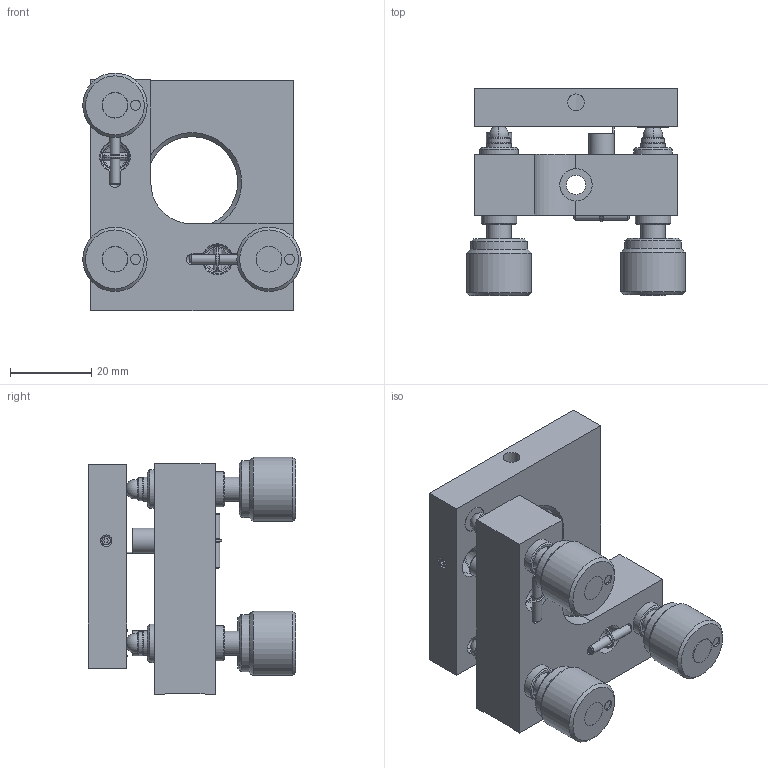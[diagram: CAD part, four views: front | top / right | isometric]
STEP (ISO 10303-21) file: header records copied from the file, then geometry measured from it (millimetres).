
FILE_DESCRIPTION(('Bauteilbeschreibung','HiCAD-Model','HiCAD-STEP-TRANSLATION','Bauteilbeschreibung'),'2;1');
FILE_NAME('D:/404485_STEP.STP','2005-03-03T10:32:44+00:00',('Konstrukteur'),('Konstrukteur Firma GmbH'),'HiCAD2 V1102 STEP 20.9.2001','HiCAD2 V1102','confidential');
FILE_SCHEMA(('AUTOMOTIVE_DESIGN { 1 2 10303 214 0 1 1 1 }'));
Length unit declared in the file: millimetre
Products named in the file (40): A0010885; BASE; A0008776; A00087760; A0008903; A00089030; A0008904; A0008758; A00089040; A0008772; A00087761; A00089031; A00089032; A00089041; A00089042; A00087720; A00087580; A00087762; A00089033; A00089034; A00089043; A00089044; A00087721; A00087581; A0008676; A00086760; A00086761; A0009083; A00090830; A00090831; A0010876; PLATE; A0009574; A00095740; A00095741; A0008863; A00088630; A00088631; A0008774; A0010102
Assembly tree (39 placements, depth 6):
  A0010885
    BASE
      A0008776
        A00087760
          A0008903
            A00089030
            A0008904
          A0008758
          A00089040
          A0008772
        A00087761
          A00089031
            A00089032
            A00089041
          A00089042
          A00087720
          A00087580
        A00087762
          A00089033
            A00089034
            A00089043
          A00089044
          A00087721
          A00087581
      A0008676
        A00086760
        A00086761
      A0009083
        A00090830
        A00090831
      A0010876
    PLATE
      A0009574
        A00095740
        A00095741
      A0008863
        A00088630
        A00088631
      A0008774
      A0010102
Bounding box: 53.88 x 51.16 x 58.69 mm (x, y, z)
Volume: 49389.5 mm3; surface area: 27122.9 mm2
Topology: 26 solids, 26 shells, 296 faces, 660 edges, 412 vertices
Faces by surface type: plane 124, cylinder 84, cone 68, sphere 12, torus 8
Full cylindrical faces by diameter (mm): 0.4 x4, 2.066 x4, 2.1 x2, 2.35 x4, 2.38 x2, 2.5 x6, 2.845 x2, 3.15 x1, 4.166 x1, 4.773 x1, 5.4 x2, 5.588 x3, 5.6 x3, 5.96 x3, 6 x1, 6.2 x2, 6.261 x3, 6.3 x1, 6.32 x3, 6.35 x3, 6.5 x1, 6.528 x1, 7.1 x2, 7.6 x2, 8 x1, 8.7 x6, 9.5 x3, 10.16 x3, 13.97 x3, 15.88 x3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
Entity records: 13627 total; most frequent: CARTESIAN_POINT 2448, DIRECTION 1410, ORIENTED_EDGE 848, COLOUR_RGB 746, PRESENTATION_STYLE_ASSIGNMENT 746, OVER_RIDING_STYLED_ITEM 720, AXIS2_PLACEMENT_3D 634, EDGE_LOOP 502
